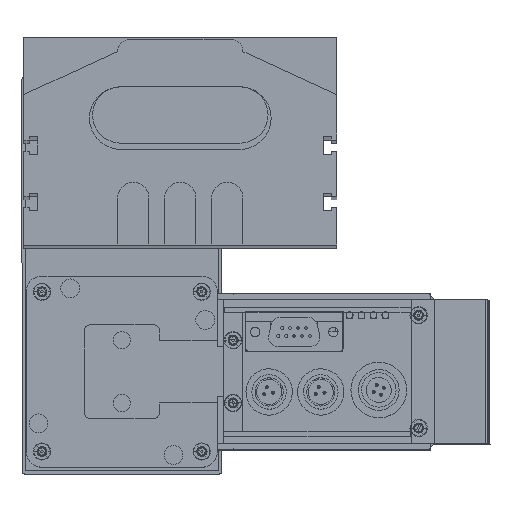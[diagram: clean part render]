
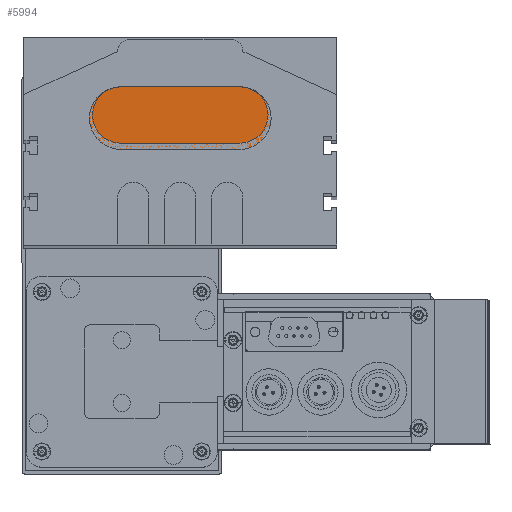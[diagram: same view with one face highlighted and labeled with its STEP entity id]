
A CAD part, top view. The second image highlights one B-rep face of the part: STEP entity #5994.
In plain terms, the highlighted planar face has unit normal (0, 0, 1).
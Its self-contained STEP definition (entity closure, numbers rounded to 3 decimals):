
#5519 = VERTEX_POINT ( 'NONE', #11517 ) ;
#5662 = ORIENTED_EDGE ( 'NONE', *, *, #23320, .T. ) ;
#5673 = EDGE_CURVE ( 'NONE', #23263, #5519, #11694, .T. ) ;
#5711 = ORIENTED_EDGE ( 'NONE', *, *, #5673, .T. ) ;
#5719 = ORIENTED_EDGE ( 'NONE', *, *, #5995, .T. ) ;
#5739 = ORIENTED_EDGE ( 'NONE', *, *, #23247, .T. ) ;
#5740 = EDGE_CURVE ( 'NONE', #5519, #5911, #10947, .T. ) ;
#5911 = VERTEX_POINT ( 'NONE', #12030 ) ;
#5944 = ORIENTED_EDGE ( 'NONE', *, *, #5740, .T. ) ;
#5984 = EDGE_LOOP ( 'NONE', ( #5662, #5739, #5711, #5944, #5719 ) ) ;
#5994 = ADVANCED_FACE ( 'NONE', ( #12103 ), #12112, .T. ) ;
#5995 = EDGE_CURVE ( 'NONE', #5911, #23419, #12154, .T. ) ;
#10648 = CARTESIAN_POINT ( 'NONE',  ( 38., 10., 10. ) ) ;
#10947 = CIRCLE ( 'NONE', #10955, 10. ) ;
#10955 = AXIS2_PLACEMENT_3D ( 'NONE', #10648, #11232, #11217 ) ;
#11217 = DIRECTION ( 'NONE',  ( -1., 0., 0. ) ) ;
#11232 = DIRECTION ( 'NONE',  ( 0., 0., 1. ) ) ;
#11517 = CARTESIAN_POINT ( 'NONE',  ( 38., 0., 10. ) ) ;
#11694 = LINE ( 'NONE', #11752, #11751 ) ;
#11750 = DIRECTION ( 'NONE',  ( 1., 0., 0. ) ) ;
#11751 = VECTOR ( 'NONE', #11750, 1000. ) ;
#11752 = CARTESIAN_POINT ( 'NONE',  ( 0., 0., 10. ) ) ;
#12030 = CARTESIAN_POINT ( 'NONE',  ( 38., 20., 10. ) ) ;
#12103 = FACE_OUTER_BOUND ( 'NONE', #5984, .T. ) ;
#12112 = PLANE ( 'NONE',  #12162 ) ;
#12146 = DIRECTION ( 'NONE',  ( -1., 0., 0. ) ) ;
#12147 = VECTOR ( 'NONE', #12146, 1000. ) ;
#12148 = DIRECTION ( 'NONE',  ( 1., 0., 0. ) ) ;
#12149 = DIRECTION ( 'NONE',  ( 0., 0., 1. ) ) ;
#12150 = CARTESIAN_POINT ( 'NONE',  ( 0., 10., 10. ) ) ;
#12153 = CARTESIAN_POINT ( 'NONE',  ( 0., 20., 10. ) ) ;
#12154 = LINE ( 'NONE', #12153, #12147 ) ;
#12162 = AXIS2_PLACEMENT_3D ( 'NONE', #12150, #12149, #12148 ) ;
#16291 = CARTESIAN_POINT ( 'NONE',  ( 0., 0., 10. ) ) ;
#16312 = AXIS2_PLACEMENT_3D ( 'NONE', #16348, #16347, #16346 ) ;
#16335 = CARTESIAN_POINT ( 'NONE',  ( -10., 10., 10. ) ) ;
#16346 = DIRECTION ( 'NONE',  ( 1., 0., 0. ) ) ;
#16347 = DIRECTION ( 'NONE',  ( 0., 0., 1. ) ) ;
#16348 = CARTESIAN_POINT ( 'NONE',  ( 0., 10., 10. ) ) ;
#16354 = CIRCLE ( 'NONE', #16312, 10. ) ;
#16399 = DIRECTION ( 'NONE',  ( 1., 0., 0. ) ) ;
#16400 = DIRECTION ( 'NONE',  ( 0., 0., 1. ) ) ;
#16406 = CARTESIAN_POINT ( 'NONE',  ( 0., 10., 10. ) ) ;
#16411 = AXIS2_PLACEMENT_3D ( 'NONE', #16406, #16400, #16399 ) ;
#16425 = CIRCLE ( 'NONE', #16411, 10. ) ;
#16532 = CARTESIAN_POINT ( 'NONE',  ( 0., 20., 10. ) ) ;
#23247 = EDGE_CURVE ( 'NONE', #23273, #23263, #16354, .T. ) ;
#23263 = VERTEX_POINT ( 'NONE', #16291 ) ;
#23273 = VERTEX_POINT ( 'NONE', #16335 ) ;
#23320 = EDGE_CURVE ( 'NONE', #23419, #23273, #16425, .T. ) ;
#23419 = VERTEX_POINT ( 'NONE', #16532 ) ;
